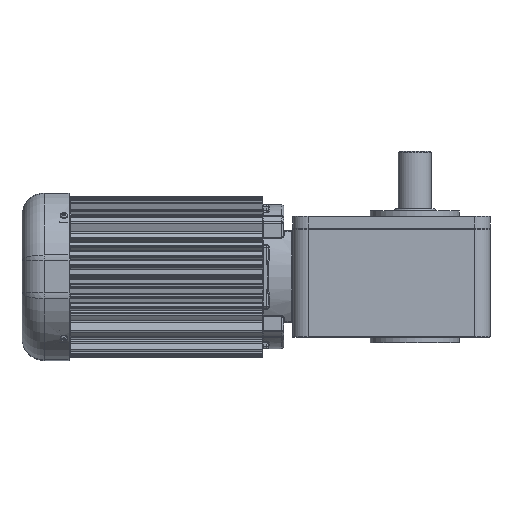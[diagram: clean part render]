
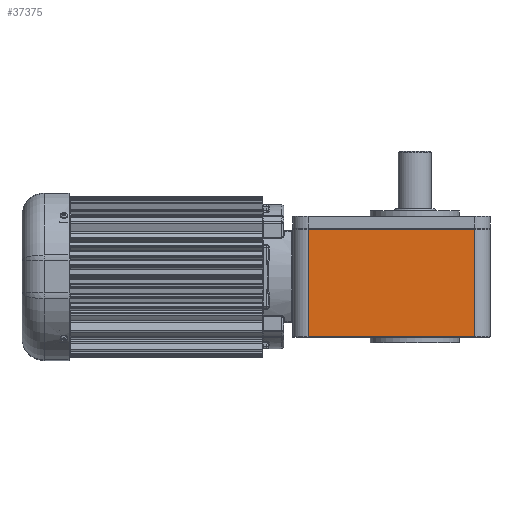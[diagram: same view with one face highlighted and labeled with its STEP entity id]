
A CAD part, front view. The second image highlights one B-rep face of the part: STEP entity #37375.
In plain terms, the highlighted planar face has unit normal (0, -1, 0).
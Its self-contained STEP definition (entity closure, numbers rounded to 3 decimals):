
#1373=PLANE('',#41180);
#4893=FACE_OUTER_BOUND('',#7166,.T.);
#7166=EDGE_LOOP('',(#32225,#32226,#32227,#32228));
#12479=LINE('',#66521,#14974);
#12508=LINE('',#66625,#15003);
#12519=LINE('',#66686,#15014);
#12520=LINE('',#66688,#15015);
#14974=VECTOR('',#50253,159.);
#15003=VECTOR('',#50380,159.);
#15014=VECTOR('',#50423,103.);
#15015=VECTOR('',#50426,103.);
#18166=VERTEX_POINT('',#66515);
#18167=VERTEX_POINT('',#66519);
#18180=VERTEX_POINT('',#66567);
#18193=VERTEX_POINT('',#66621);
#22942=EDGE_CURVE('',#18167,#18166,#12479,.T.);
#22994=EDGE_CURVE('',#18180,#18193,#12508,.T.);
#23015=EDGE_CURVE('',#18166,#18180,#12519,.T.);
#23016=EDGE_CURVE('',#18167,#18193,#12520,.T.);
#32225=ORIENTED_EDGE('',*,*,#22994,.F.);
#32226=ORIENTED_EDGE('',*,*,#23015,.F.);
#32227=ORIENTED_EDGE('',*,*,#22942,.F.);
#32228=ORIENTED_EDGE('',*,*,#23016,.T.);
#37375=ADVANCED_FACE('',(#4893),#1373,.T.);
#41180=AXIS2_PLACEMENT_3D('',#66687,#50424,#50425);
#50253=DIRECTION('',(1.,0.,0.));
#50380=DIRECTION('',(-1.,0.,0.));
#50423=DIRECTION('',(0.,0.,-1.));
#50424=DIRECTION('center_axis',(0.,-1.,0.));
#50425=DIRECTION('ref_axis',(0.,0.,-1.));
#50426=DIRECTION('',(0.,0.,-1.));
#66515=CARTESIAN_POINT('',(123.842,-119.502,19.867));
#66519=CARTESIAN_POINT('',(-35.158,-119.502,19.867));
#66521=CARTESIAN_POINT('',(-35.158,-119.502,19.867));
#66567=CARTESIAN_POINT('',(123.842,-119.502,-83.133));
#66621=CARTESIAN_POINT('',(-35.158,-119.502,-83.133));
#66625=CARTESIAN_POINT('',(123.842,-119.502,-83.133));
#66686=CARTESIAN_POINT('',(123.842,-119.502,19.867));
#66687=CARTESIAN_POINT('Origin',(123.842,-119.502,-25.633));
#66688=CARTESIAN_POINT('',(-35.158,-119.502,19.867));
